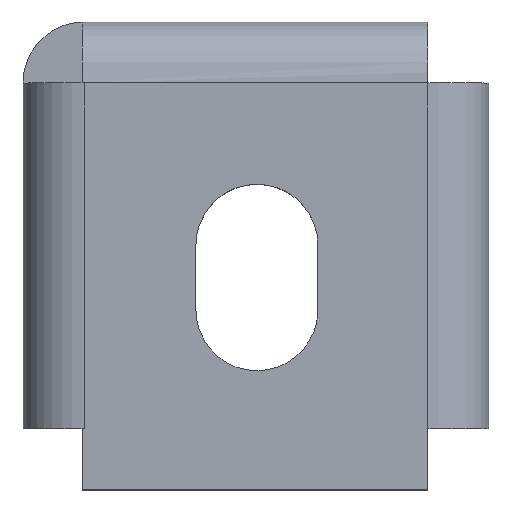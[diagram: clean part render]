
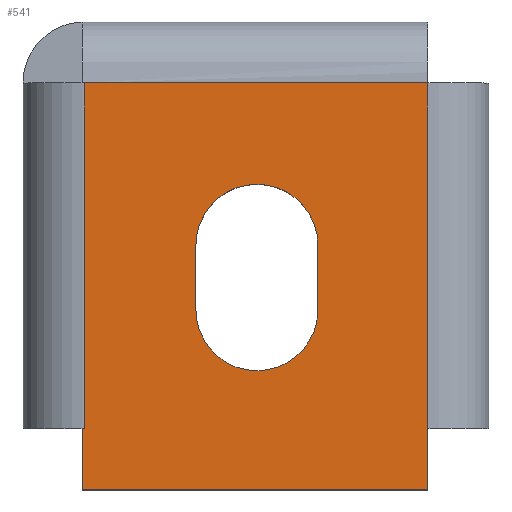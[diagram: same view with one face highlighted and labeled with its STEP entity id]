
A CAD part, top view. The second image highlights one B-rep face of the part: STEP entity #541.
In plain terms, the highlighted free-form (B-spline) face has degree [1, 1] with [2, 2] control points.
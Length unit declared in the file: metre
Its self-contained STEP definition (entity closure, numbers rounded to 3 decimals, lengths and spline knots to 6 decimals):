
#22=CIRCLE('',#573,0.003);
#33=CIRCLE('',#584,0.003);
#34=CIRCLE('',#585,0.003);
#35=CIRCLE('',#586,0.003);
#111=ORIENTED_EDGE('',*,*,#245,.F.);
#112=ORIENTED_EDGE('',*,*,#246,.T.);
#113=ORIENTED_EDGE('',*,*,#247,.T.);
#114=ORIENTED_EDGE('',*,*,#248,.F.);
#115=ORIENTED_EDGE('',*,*,#249,.F.);
#116=ORIENTED_EDGE('',*,*,#210,.T.);
#117=ORIENTED_EDGE('',*,*,#209,.T.);
#118=ORIENTED_EDGE('',*,*,#250,.F.);
#119=ORIENTED_EDGE('',*,*,#251,.T.);
#120=ORIENTED_EDGE('',*,*,#243,.F.);
#121=ORIENTED_EDGE('',*,*,#236,.F.);
#122=ORIENTED_EDGE('',*,*,#252,.T.);
#209=EDGE_CURVE('',#283,#282,#22,.T.);
#210=EDGE_CURVE('',#284,#283,#331,.T.);
#236=EDGE_CURVE('',#303,#305,#348,.T.);
#243=EDGE_CURVE('',#305,#307,#354,.T.);
#245=EDGE_CURVE('',#308,#309,#356,.T.);
#246=EDGE_CURVE('',#308,#310,#33,.T.);
#247=EDGE_CURVE('',#310,#311,#357,.T.);
#248=EDGE_CURVE('',#312,#311,#34,.T.);
#249=EDGE_CURVE('',#309,#312,#35,.T.);
#250=EDGE_CURVE('',#313,#282,#358,.T.);
#251=EDGE_CURVE('',#313,#307,#359,.T.);
#252=EDGE_CURVE('',#303,#284,#360,.T.);
#282=VERTEX_POINT('',#741);
#283=VERTEX_POINT('',#743);
#284=VERTEX_POINT('',#745);
#303=VERTEX_POINT('',#817);
#305=VERTEX_POINT('',#820);
#307=VERTEX_POINT('',#845);
#308=VERTEX_POINT('',#852);
#309=VERTEX_POINT('',#853);
#310=VERTEX_POINT('',#855);
#311=VERTEX_POINT('',#857);
#312=VERTEX_POINT('',#859);
#313=VERTEX_POINT('',#862);
#331=LINE('',#744,#386);
#348=LINE('',#819,#403);
#354=LINE('',#844,#409);
#356=LINE('',#851,#411);
#357=LINE('',#856,#412);
#358=LINE('',#861,#413);
#359=LINE('',#863,#414);
#360=LINE('',#864,#415);
#386=VECTOR('',#612,1.);
#403=VECTOR('',#647,1.);
#409=VECTOR('',#655,1.);
#411=VECTOR('',#657,1.);
#412=VECTOR('',#660,1.);
#413=VECTOR('',#665,1.);
#414=VECTOR('',#666,1.);
#415=VECTOR('',#667,1.);
#447=EDGE_LOOP('',(#111,#112,#113,#114,#115));
#448=EDGE_LOOP('',(#116,#117,#118,#119,#120,#121,#122));
#483=FACE_BOUND('',#447,.T.);
#484=FACE_BOUND('',#448,.T.);
#515=B_SPLINE_SURFACE_WITH_KNOTS('',1,1,((#847,#848),(#849,#850)),
 .PLANE_SURF.,.F.,.F.,.F.,(2,2),(2,2),(0.,1.),(0.,1.),.UNSPECIFIED.);
#541=ADVANCED_FACE('',(#483,#484),#515,.F.);
#573=AXIS2_PLACEMENT_3D('',#742,#610,#611);
#584=AXIS2_PLACEMENT_3D('',#854,#658,#659);
#585=AXIS2_PLACEMENT_3D('',#858,#661,#662);
#586=AXIS2_PLACEMENT_3D('',#860,#663,#664);
#610=DIRECTION('',(0.,-1.,0.));
#611=DIRECTION('',(0.,0.,1.));
#612=DIRECTION('',(0.,-1.,0.));
#647=DIRECTION('',(0.,-1.,0.));
#655=DIRECTION('',(0.,-1.,0.));
#657=DIRECTION('',(0.,-1.,0.));
#658=DIRECTION('',(0.,0.,-1.));
#659=DIRECTION('',(0.,-1.,0.));
#660=DIRECTION('',(0.,-1.,0.));
#661=DIRECTION('',(0.,0.,1.));
#662=DIRECTION('',(0.,-1.,0.));
#663=DIRECTION('',(0.,0.,1.));
#664=DIRECTION('',(0.,-1.,0.));
#665=DIRECTION('',(0.,1.,0.));
#666=DIRECTION('',(1.,0.,0.));
#667=DIRECTION('',(-1.,0.,0.));
#741=CARTESIAN_POINT('',(0.173224,-0.02,0.069016));
#742=CARTESIAN_POINT('',(0.173324,-0.02,0.066016));
#743=CARTESIAN_POINT('',(0.173324,-0.02,0.069016));
#744=CARTESIAN_POINT('',(0.173324,-0.0115,0.069016));
#745=CARTESIAN_POINT('',(0.173324,-0.003,0.069016));
#817=CARTESIAN_POINT('',(0.190224,-0.003,0.069016));
#819=CARTESIAN_POINT('',(0.190224,0.007,0.069016));
#820=CARTESIAN_POINT('',(0.190224,-0.02,0.069016));
#844=CARTESIAN_POINT('',(0.190224,0.007,0.069016));
#845=CARTESIAN_POINT('',(0.190224,-0.023,0.069016));
#847=CARTESIAN_POINT('',(0.172374,-0.002,0.069016));
#848=CARTESIAN_POINT('',(0.172374,-0.024,0.069016));
#849=CARTESIAN_POINT('',(0.191074,-0.002,0.069016));
#850=CARTESIAN_POINT('',(0.191074,-0.024,0.069016));
#851=CARTESIAN_POINT('',(0.178819,-0.012561,0.069016));
#852=CARTESIAN_POINT('',(0.178819,-0.01098,0.069016));
#853=CARTESIAN_POINT('',(0.178819,-0.014142,0.069016));
#854=CARTESIAN_POINT('',(0.181819,-0.01098,0.069016));
#855=CARTESIAN_POINT('',(0.184819,-0.01098,0.069016));
#856=CARTESIAN_POINT('',(0.184819,-0.012584,0.069016));
#857=CARTESIAN_POINT('',(0.184819,-0.014188,0.069016));
#858=CARTESIAN_POINT('',(0.181819,-0.014142,0.069016));
#859=CARTESIAN_POINT('',(0.181819,-0.017143,0.069016));
#860=CARTESIAN_POINT('',(0.181819,-0.014142,0.069016));
#861=CARTESIAN_POINT('',(0.173224,0.007,0.069016));
#862=CARTESIAN_POINT('',(0.173224,-0.023,0.069016));
#863=CARTESIAN_POINT('',(0.181724,-0.023,0.069016));
#864=CARTESIAN_POINT('',(0.190224,-0.003,0.069016));
